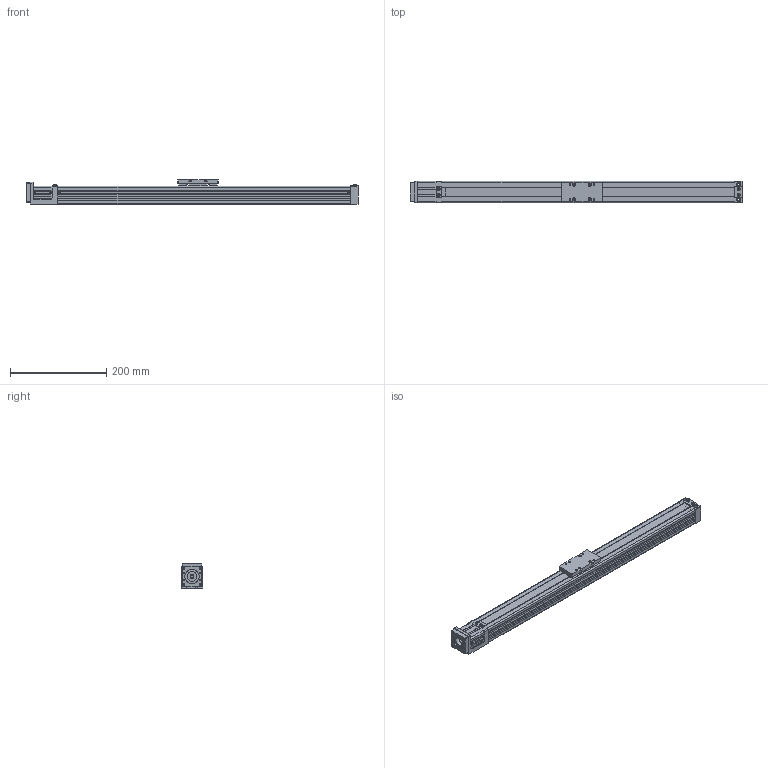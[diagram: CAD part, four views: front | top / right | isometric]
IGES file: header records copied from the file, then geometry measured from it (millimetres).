
Global section: file name: No Iges File Name specified; native system: AutoDesk Inventor R10; preprocessor: AutoDesk Inventor Iges Exporter R10; author: No Author specified; organization: No Organization specified; date: 20110617.144034; units: millimetre
Bounding box: 689 x 45 x 50 mm (x, y, z)
Surface area: 269599.3 mm2 (no closed solid volume)
Topology: 0 solids, 0 shells, 830 faces, 5530 edges, 5510 vertices
Faces by surface type: bspline 830
